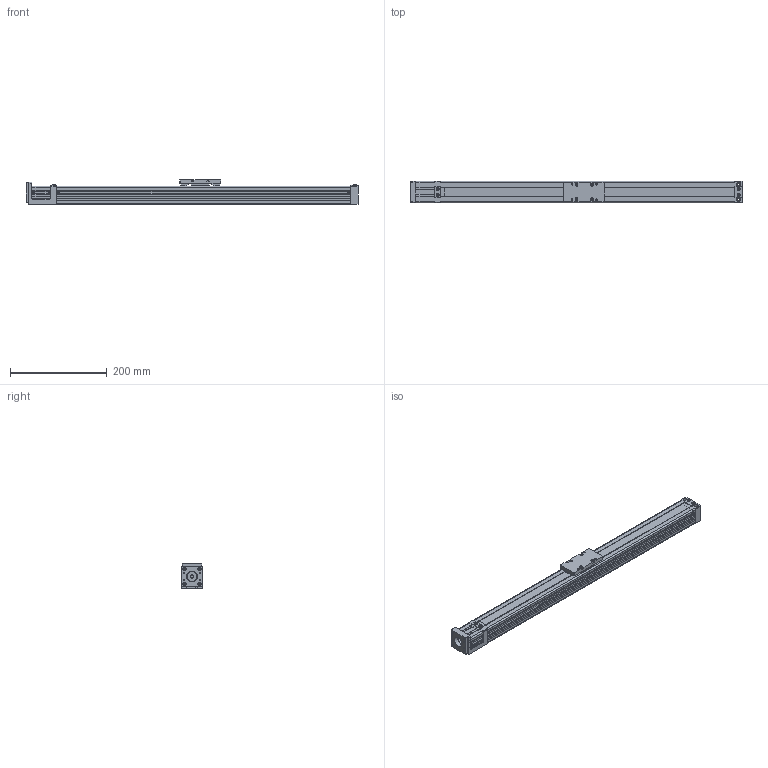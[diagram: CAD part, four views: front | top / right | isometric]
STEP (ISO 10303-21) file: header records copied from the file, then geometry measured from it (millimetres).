
FILE_DESCRIPTION((''),'2;1');
FILE_NAME('D:\製品 (図面)\カタログ用3D\SU部品\SU45×50\ダウンロード用\SU45×50-MB42\SU45×50-500-MB42.stp','2011-06-17T14:50:15',('Tsuchiya'),(''),'Autodesk Inventor 10','Autodesk Inventor 10','');
FILE_SCHEMA(('AUTOMOTIVE_DESIGN { 1 0 10303 214 1 1 1 1 }'));
Length unit declared in the file: millimetre
Products named in the file (3): SU45×50-500-MB42; SB45×50-500-MB42-1(1); SU45×50-T(1)
Assembly tree (2 placements, depth 2):
  SU45×50-500-MB42
    SB45×50-500-MB42-1(1)
    SU45×50-T(1)
Bounding box: 686 x 45 x 50 mm (x, y, z)
Volume: 388158.1 mm3; surface area: 269615.4 mm2
Topology: 2 solids, 8 shells, 723 faces, 1898 edges, 1253 vertices
Faces by surface type: plane 527, cylinder 91, bspline 74, torus 18, cone 13
Full cylindrical faces by diameter (mm): 2.459 x4, 3.242 x4, 3.4 x4, 4 x6, 4.5 x10, 5 x4, 6 x5, 7 x6, 8 x7, 10 x1, 20 x1, 22 x1, 30 x1
Entity records: 22089 total; most frequent: CARTESIAN_POINT 5002, ORIENTED_EDGE 3446, DIRECTION 3272, EDGE_CURVE 1723, VECTOR 1318, LINE 1318, VERTEX_POINT 1209, EDGE_LOOP 1000
